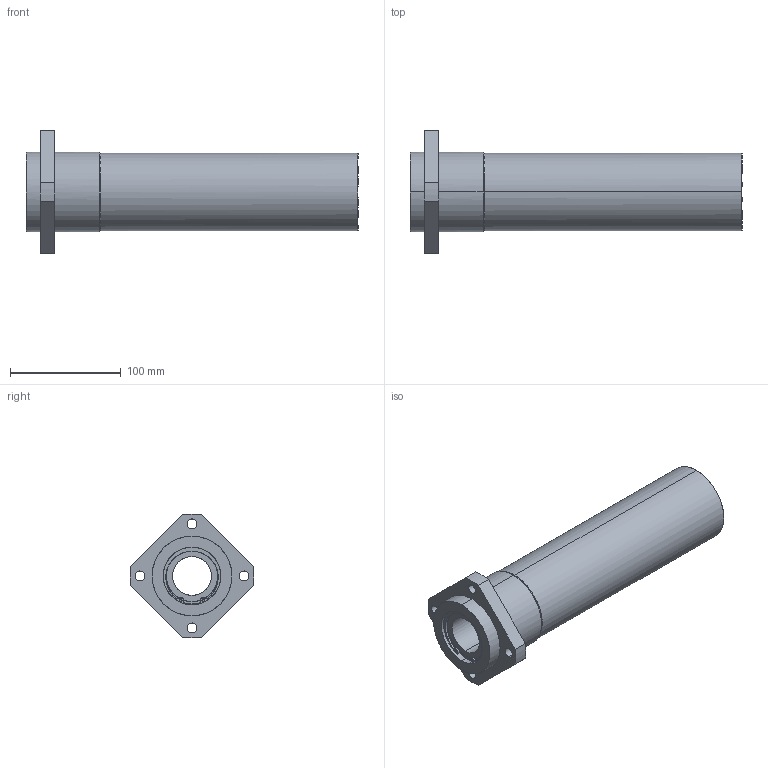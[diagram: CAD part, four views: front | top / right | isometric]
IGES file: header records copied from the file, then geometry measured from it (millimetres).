
Global section: file name: No Iges File Name specified; native system: AutoDesk Inventor R11.0; preprocessor: AutoDesk Inventor Iges Exporter R11.0; author: No Author specified; organization: No Organization specified; date: 20170922.140921; units: millimetre
Bounding box: 300 x 111.86 x 111.93 mm (x, y, z)
Surface area: 126057.6 mm2 (no closed solid volume)
Topology: 0 solids, 0 shells, 133 faces, 964 edges, 964 vertices
Faces by surface type: bspline 133
